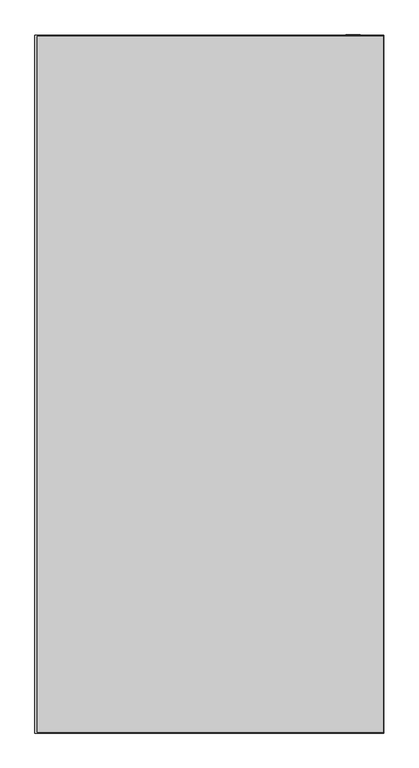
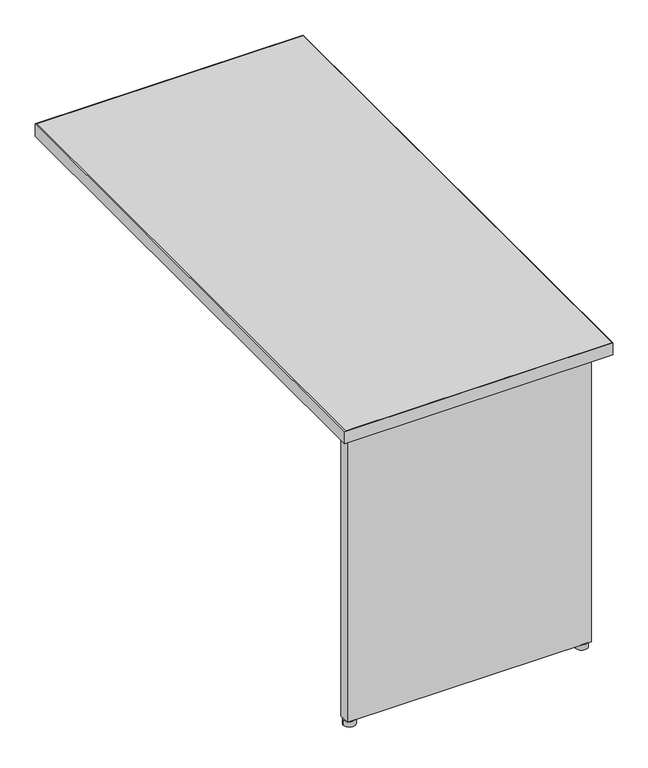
"""IFC4 building model written with IfcOpenShell, lengths in millimetres: furniture geometry, Steelcase - Kick Freestanding - Desk - Return - Partial Height Modesty Panel : 24D x 48W - Right."""

from ifc_helpers import new_model, si_unit, point, frame, frame_2d, origin, origin_with_axes, place, context, project, spatial, polyline, circle_curve, trimmed, segment, composite_curve, outline, extrude, source, transform, mapped, element, save


def furniture_02bbc803(model_context):
    return source(origin(), model_context, "Body", "SweptSolid", [
        extrude(outline(composite_curve([segment(trimmed(circle_curve(frame_2d((2107.4714425, -1740.6145152)), 13.97), [point((2121.4414425, -1740.6145152))], [point((2093.5014425, -1740.6145152))], False, "CARTESIAN"), True, "CONTINUOUS"), segment(trimmed(circle_curve(frame_2d((2107.4714425, -1740.6145152)), 13.97), [point((2093.5014425, -1740.6145152))], [point((2121.4414425, -1740.6145152))], False, "CARTESIAN"), True, "CONTINUOUS")], self_intersect=False)), origin_with_axes(), (0.0, 0.0, 1.0), 12.7),
        extrude(outline(composite_curve([segment(trimmed(circle_curve(frame_2d((1579.6594425, -1740.6145152)), 13.97), [point((1593.6294425, -1740.6145152))], [point((1565.6894425, -1740.6145152))], False, "CARTESIAN"), True, "CONTINUOUS"), segment(trimmed(circle_curve(frame_2d((1579.6594425, -1740.6145152)), 13.97), [point((1565.6894425, -1740.6145152))], [point((1593.6294425, -1740.6145152))], False, "CARTESIAN"), True, "CONTINUOUS")], self_intersect=False)), origin_with_axes(), (0.0, 0.0, 1.0), 12.7),
        extrude(outline(polyline([(2122.7114425, -1728.0669152), (2122.7114425, -1752.5525098), (1568.2294473, -1752.5525098), (1568.2294473, -1728.0669041), (1691.2670317, -1728.0669041), (1691.2670317, -1750.4951136), (1790.9874347, -1750.4951136), (1790.9874347, -1728.0669041), (1899.7248382, -1728.0669041), (1899.7248382, -1750.4951136), (1999.4452412, -1750.4951136), (1999.4452412, -1728.0669152), (2122.7114425, -1728.0669152)])), frame((0.0, 0.0, 12.7), z_axis=(0.0, 0.0, 1.0), x_axis=(1.0, 0.0, 0.0)), (0.0, 0.0, 1.0), 682.244),
        extrude(outline(polyline([(2097.3114424, -546.0525152), (2122.7114425, -546.0525152), (2122.7114425, -1728.0669152), (2097.3114424, -1728.0669152), (2097.3114424, -546.0525152)])), frame((0.0, 0.0, 390.144), z_axis=(0.0, 0.0, 1.0), x_axis=(1.0, 0.0, 0.0)), (0.0, 0.0, 1.0), 304.8),
        extrude(outline(polyline([(1558.5012257, -548.0845152), (2162.8688425, -548.0845152), (2162.8688425, -1764.7445152), (1558.5012257, -1764.7445152), (1558.5012257, -548.0845152)])), frame((0.0, 0.0, 694.944), z_axis=(0.0, 0.0, 1.0), x_axis=(1.0, 0.0, 0.0)), (0.0, 0.0, 1.0), 28.956),
        extrude(outline(polyline([(1554.2594425, -546.8145152), (2163.8594425, -546.8145152), (2163.8594425, -1766.0145152), (1554.2594425, -1766.0145152), (1554.2594425, -546.8145152)]), holes=[polyline([(1558.5012257, -548.0845152), (1558.5012257, -1764.7445152), (2162.8688425, -1764.7445152), (2162.8688425, -548.0845152), (1558.5012257, -548.0845152)])]), frame((0.0, 0.0, 694.944), z_axis=(0.0, 0.0, 1.0), x_axis=(1.0, 0.0, 0.0)), (0.0, 0.0, 1.0), 28.956),
    ])


if __name__ == "__main__":
    model = new_model("IFC4")
    model_context = context("Model", 3, world=origin())
    ifc_project = project(units=[si_unit("LENGTHUNIT", "METRE", prefix="MILLI")], contexts=[model_context])
    site = spatial("IfcSite", under=ifc_project)
    building = spatial("IfcBuilding", under=site)
    placement = place(None, origin())
    furniture_shape = furniture_02bbc803(model_context)
    element("IfcFurniture", 1, ObjectType="Steelcase - Kick Freestanding - Desk - Return - Partial Height Modesty Panel : 24D x 48W - Right", at=placement, inside=building, context=model_context, shape_type="MappedRepresentation", body=[
        mapped(furniture_shape, transform((0.0, 0.0, 0.0), x_axis=(1.0, 0.0, 0.0), y_axis=(0.0, 1.0, 0.0), z_axis=(0.0, 0.0, 1.0))),
    ])
    save(model, "model.ifc")
